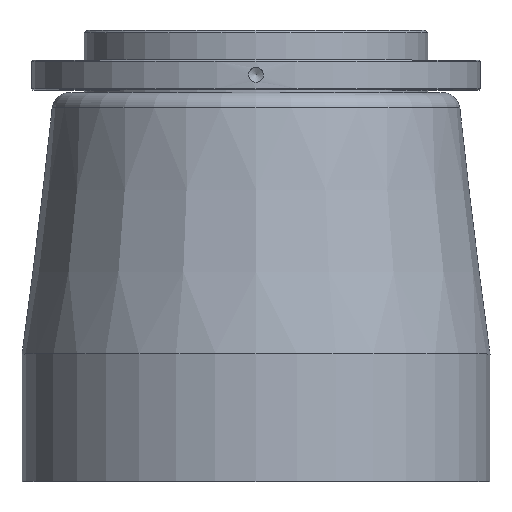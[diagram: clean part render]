
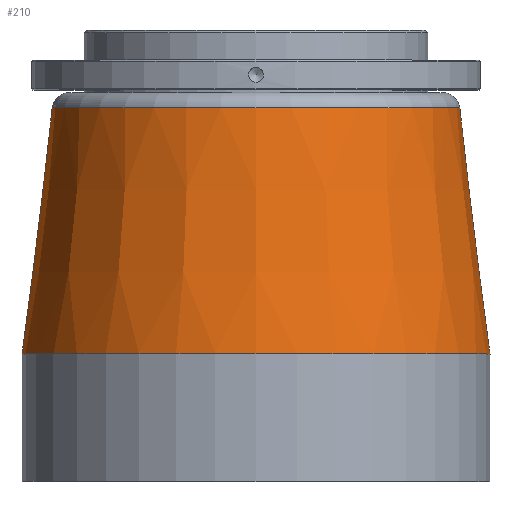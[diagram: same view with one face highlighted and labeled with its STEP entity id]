
A CAD part, top view. The second image highlights one B-rep face of the part: STEP entity #210.
In plain terms, the highlighted conical face has half-angle 7 degrees and reference radius 81.775 mm.
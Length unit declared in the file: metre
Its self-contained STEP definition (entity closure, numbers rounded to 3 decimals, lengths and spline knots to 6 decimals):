
#210=ADVANCED_FACE('',(#458,#459),#460,.T.);
#458=FACE_OUTER_BOUND('',#751,.T.);
#459=FACE_BOUND('',#752,.T.);
#460=CONICAL_SURFACE('',#753,0.081775,0.122);
#751=EDGE_LOOP('',(#1166));
#752=EDGE_LOOP('',(#1167));
#753=AXIS2_PLACEMENT_3D('',#1168,#1169,#1170);
#1166=ORIENTED_EDGE('',*,*,#1432,.T.);
#1167=ORIENTED_EDGE('',*,*,#1548,.F.);
#1168=CARTESIAN_POINT('',(-0.025235,0.097389,0.0));
#1169=DIRECTION('',(0.0,-1.0,-0.0));
#1170=DIRECTION('',(0.0,0.0,-1.0));
#1432=EDGE_CURVE('',#1647,#1647,#1648,.T.);
#1548=EDGE_CURVE('',#1822,#1822,#1823,.T.);
#1647=VERTEX_POINT('',#1938);
#1648=CIRCLE('',#1939,0.0939);
#1822=VERTEX_POINT('',#2305);
#1823=CIRCLE('',#2306,0.081775);
#1938=CARTESIAN_POINT('',(-0.025235,-0.001358,0.0939));
#1939=AXIS2_PLACEMENT_3D('',#2444,#2445,#2446);
#2305=CARTESIAN_POINT('',(-0.025235,0.097389,0.081775));
#2306=AXIS2_PLACEMENT_3D('',#2601,#2602,#2603);
#2444=CARTESIAN_POINT('',(-0.025235,-0.001358,0.0));
#2445=DIRECTION('',(0.0,1.0,0.0));
#2446=DIRECTION('',(0.0,0.0,1.0));
#2601=CARTESIAN_POINT('',(-0.025235,0.097389,0.0));
#2602=DIRECTION('',(0.0,1.0,0.0));
#2603=DIRECTION('',(0.0,0.0,1.0));
